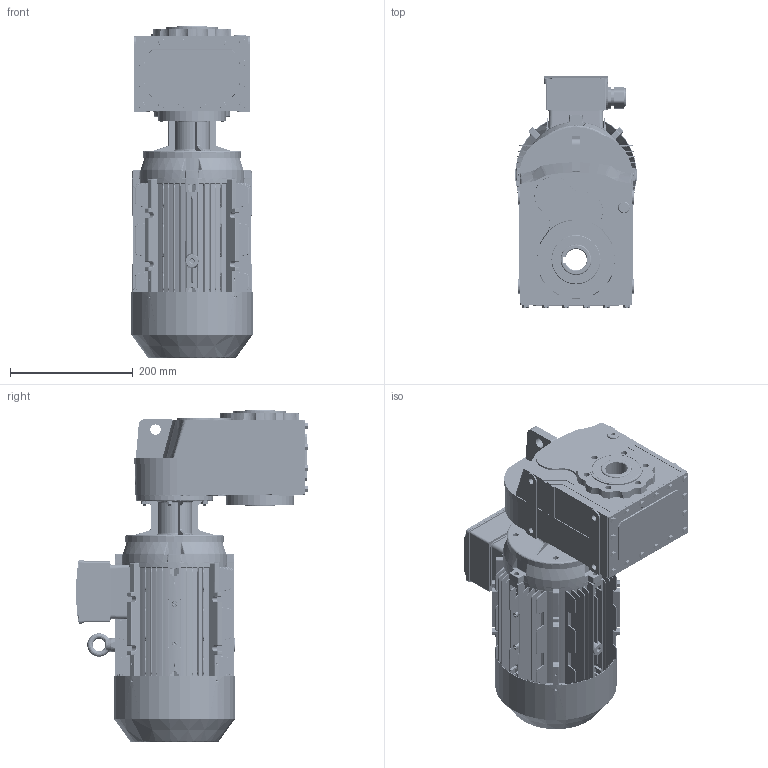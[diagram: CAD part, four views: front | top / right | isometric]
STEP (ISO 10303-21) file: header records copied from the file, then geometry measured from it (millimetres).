
FILE_DESCRIPTION (( 'STEP AP203' ), '1' );
FILE_NAME ('DV_273_0_MX3-100L.STEP', '2018-11-15T10:11:46', ( '' ), ( '' ), 'SwSTEP 2.0', 'SolidWorks 2012', '' );
FILE_SCHEMA (( 'CONFIG_CONTROL_DESIGN' ));
Products named in the file (16): DV_273_0_MX3-100L; MX3-100L_B14; IE3 100 B14 flange; IE3 100 shaft cover; IE3 100 fan cover; IE3 100 terminal box cover; IE3 100 fan; plain parallel keys_GB_CONNECTING_PIECE_KEYS_CSK 8X50; IE3 100 terminal box base; eyebolts gb_GB_FASTENER_SCREWS_FRS M8-N; IE3 100 B3 Shield; IE3 100 Shaft; 13100B14_Varsayìlan; IE3 100 casing; ML17A_Varsayìlan; D273_Varsayìlan
Assembly tree (16 placements, depth 3):
  DV_273_0_MX3-100L
    D273_Varsayìlan
    13100B14_Varsayìlan
    ML17A_Varsayìlan
    MX3-100L_B14
      IE3 100 casing
      IE3 100 B3 Shield
      IE3 100 Shaft
      eyebolts gb_GB_FASTENER_SCREWS_FRS M8-N
      IE3 100 terminal box base
      IE3 100 terminal box cover
      IE3 100 fan
      IE3 100 fan cover
      plain parallel keys_GB_CONNECTING_PIECE_KEYS_CSK 8X50
      IE3 100 shaft cover  x2
      IE3 100 B14 flange
Bounding box: 197.36 x 377 x 540.51 mm (x, y, z)
Volume: 7792028.5 mm3; surface area: 1418947.7 mm2
Topology: 16 solids, 18 shells, 5778 faces, 14775 edges, 9011 vertices
Faces by surface type: plane 1809, bspline 1572, cylinder 1376, cone 577, torus 332, sphere 112
Entity records: 234148 total; most frequent: CARTESIAN_POINT 107204, ORIENTED_EDGE 28884, DIRECTION 22350, EDGE_CURVE 14442, VERTEX_POINT 8903, AXIS2_PLACEMENT_3D 8261, EDGE_LOOP 6207, LINE 5828
